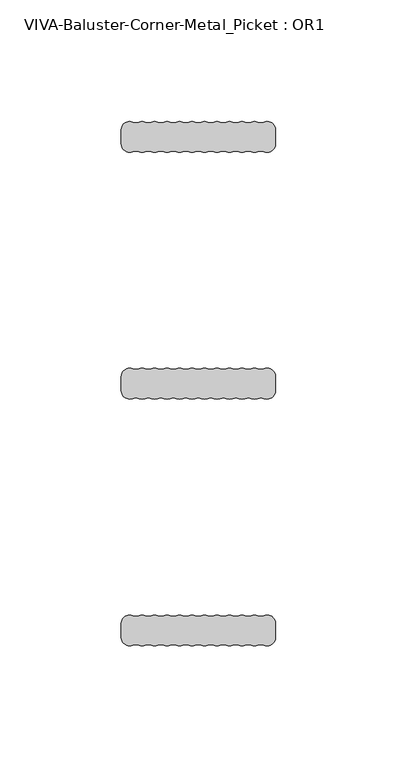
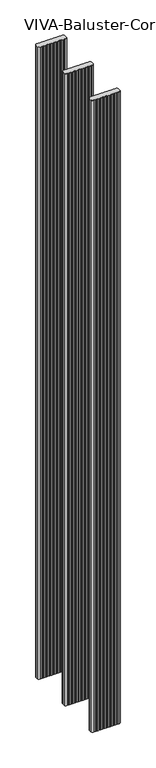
"""IFC4 building model written with IfcOpenShell, lengths in millimetres: railing geometry, VIVA-Baluster-Corner-Metal_Picket : OR1."""

import ifcopenshell
import ifcopenshell.guid

model = None  # the IFC model being written
_history = None  # IfcOwnerHistory: only IFC2X3 demands one
_inside = {}  # id of a spatial element -> (the spatial element, [elements in it])
_under = {}  # id of a project, library or spatial element -> (it, [spatial elements below it])
_declared = {}  # id of a project -> (the project, [libraries it declares])
_typed = {}  # id of a type object -> (the type object, [elements of that type])
_made_of = {}  # id of a material, layer set ... -> (it, [elements and type objects made of it])


def new_model(schema):
    """Start an empty IFC model of exactly this schema.

    Asked for "IFC4X3", IfcOpenShell would pick the latest addendum, in which some entities
    have other attributes; the version numbers below select the first issue.
    IFC2X3 requires an IfcOwnerHistory on every rooted entity: one is made here for all.
    """
    global model, _history
    if schema == "IFC4X3":
        model = ifcopenshell.file(schema_version=(4, 3, 0, 0))
    else:
        model = ifcopenshell.file(schema=schema)
    _inside.clear()
    _under.clear()
    _declared.clear()
    _typed.clear()
    _made_of.clear()
    _history = None
    if model.schema == "IFC2X3":
        org = make("IfcOrganization", Name="unknown")
        user = make(
            "IfcPersonAndOrganization",
            ThePerson=make("IfcPerson", FamilyName="unknown"),
            TheOrganization=org,
        )
        app = make(
            "IfcApplication",
            ApplicationDeveloper=org,
            Version="unknown",
            ApplicationFullName="unknown",
            ApplicationIdentifier="unknown",
        )
        _history = make(
            "IfcOwnerHistory",
            OwningUser=user,
            OwningApplication=app,
            ChangeAction="ADDED",
            CreationDate=0,
        )
    return model


def make(cls, **values):
    """One entity of the class cls with the attributes given. An attribute that is None is left unset."""
    return model.create_entity(
        cls, **{name: value for name, value in values.items() if value is not None}
    )


def rooted(cls, **values):
    """An entity with a GlobalId (a new one), such as an element, a storey or a relation."""
    return make(cls, GlobalId=ifcopenshell.guid.new(), OwnerHistory=_history, **values)


def si_unit(unit_type, name, prefix=None):
    """IfcSIUnit, for example si_unit("LENGTHUNIT", "METRE", prefix="MILLI")."""
    return make("IfcSIUnit", UnitType=unit_type, Prefix=prefix, Name=name)


def assignment(units):
    """IfcUnitAssignment: the units of a project."""
    return None if units is None else make("IfcUnitAssignment", Units=units)


def point(xyz):
    """IfcCartesianPoint."""
    return None if xyz is None else make("IfcCartesianPoint", Coordinates=xyz)


def direction(xyz):
    """IfcDirection."""
    return None if xyz is None else make("IfcDirection", DirectionRatios=xyz)


def frame(location, z_axis=None, x_axis=None):
    """IfcAxis2Placement3D, a coordinate frame: its origin and axes. An axis left out is left unset."""
    return make(
        "IfcAxis2Placement3D",
        Location=point(location),
        Axis=direction(z_axis),
        RefDirection=direction(x_axis),
    )


def frame_2d(location, x_axis=None):
    """IfcAxis2Placement2D, a coordinate frame in the plane: its origin and x axis."""
    return make(
        "IfcAxis2Placement2D", Location=point(location), RefDirection=direction(x_axis)
    )


def origin():
    """The frame at (0, 0, 0) with its axes left unset."""
    return frame((0.0, 0.0, 0.0))


def place(relative_to, where):
    """IfcLocalPlacement: puts the frame where relative to a parent placement (None: the world)."""
    return make(
        "IfcLocalPlacement", PlacementRelTo=relative_to, RelativePlacement=where
    )


def context(
    kind, dimensions, precision=None, world=None, true_north=None, identifier=None
):
    """IfcGeometricRepresentationContext, for example the 3D "Model" context."""
    return make(
        "IfcGeometricRepresentationContext",
        ContextIdentifier=identifier,
        ContextType=kind,
        CoordinateSpaceDimension=dimensions,
        Precision=precision,
        WorldCoordinateSystem=world,
        TrueNorth=true_north,
    )


def project(units=None, contexts=None):
    """IfcProject with its units and contexts."""
    return rooted(
        "IfcProject",
        Name="project",
        RepresentationContexts=contexts,
        UnitsInContext=assignment(units),
    )


def spatial(cls, under=None, at=None, **own):
    """A site, building, storey or space (cls), placed at a placement, below another one or the project."""
    s = rooted(cls, ObjectPlacement=at, **own)
    if under is not None:
        _under.setdefault(under.id(), (under, []))[1].append(s)
    return s


def polyline(points):
    """IfcPolyline through the points."""
    return make("IfcPolyline", Points=[point(p) for p in points])


def circle_curve(where, radius):
    """IfcCircle in the frame where."""
    return make("IfcCircle", Position=where, Radius=radius)


def trimmed(basis, trim1, trim2, sense, master):
    """IfcTrimmedCurve: the piece of a basis curve between two trims."""
    return make(
        "IfcTrimmedCurve",
        BasisCurve=basis,
        Trim1=trim1,
        Trim2=trim2,
        SenseAgreement=sense,
        MasterRepresentation=master,
    )


def segment(curve, same_sense, transition):
    """IfcCompositeCurveSegment."""
    return make(
        "IfcCompositeCurveSegment",
        Transition=transition,
        SameSense=same_sense,
        ParentCurve=curve,
    )


def composite_curve(segments, self_intersect=None):
    """IfcCompositeCurve: segments joined end to end."""
    return make("IfcCompositeCurve", Segments=segments, SelfIntersect=self_intersect)


def outline(outer, holes=None, kind="AREA"):
    """IfcArbitraryClosedProfileDef: a profile drawn as a closed curve; with holes, ...WithVoids."""
    if holes is None:
        return make("IfcArbitraryClosedProfileDef", ProfileType=kind, OuterCurve=outer)
    return make(
        "IfcArbitraryProfileDefWithVoids",
        ProfileType=kind,
        OuterCurve=outer,
        InnerCurves=holes,
    )


def extrude(swept, where, along, depth):
    """IfcExtrudedAreaSolid: the profile swept, set in the frame where, extruded along a direction by depth."""
    return make(
        "IfcExtrudedAreaSolid",
        SweptArea=swept,
        Position=where,
        ExtrudedDirection=direction(along),
        Depth=depth,
    )


def shape(context_of_items, identifier, shape_type, items):
    """IfcShapeRepresentation: the items that make up one representation, for example the "Body"."""
    return make(
        "IfcShapeRepresentation",
        ContextOfItems=context_of_items,
        RepresentationIdentifier=identifier,
        RepresentationType=shape_type,
        Items=items,
    )


def source(mapping_origin, context_of_items, identifier, shape_type, items):
    """IfcRepresentationMap: a shape defined once, which mapped items show again and again."""
    return make(
        "IfcRepresentationMap",
        MappingOrigin=mapping_origin,
        MappedRepresentation=shape(context_of_items, identifier, shape_type, items),
    )


def transform(
    local_origin,
    x_axis=None,
    y_axis=None,
    z_axis=None,
    scale=None,
    scale2=None,
    scale3=None,
    uniform=True,
):
    """IfcCartesianTransformationOperator3D, or its non-uniform kind. x_axis, y_axis, z_axis: its Axis1, 2, 3."""
    if uniform:
        return make(
            "IfcCartesianTransformationOperator3D",
            Axis1=direction(x_axis),
            Axis2=direction(y_axis),
            LocalOrigin=point(local_origin),
            Scale=scale,
            Axis3=direction(z_axis),
        )
    return make(
        "IfcCartesianTransformationOperator3DnonUniform",
        Axis1=direction(x_axis),
        Axis2=direction(y_axis),
        LocalOrigin=point(local_origin),
        Scale=scale,
        Axis3=direction(z_axis),
        Scale2=scale2,
        Scale3=scale3,
    )


def mapped(mapping_source, mapping_target):
    """IfcMappedItem: shows the shape of a source again, moved by a transform."""
    return make(
        "IfcMappedItem", MappingSource=mapping_source, MappingTarget=mapping_target
    )


def made_of(thing, what):
    """Note that an element or type object is made of a material, layer set ...; save() writes the relation."""
    if what is not None:
        _made_of.setdefault(what.id(), (what, []))[1].append(thing)
    return thing


def element(
    cls,
    number,
    at=None,
    inside=None,
    cuts=None,
    type_object=None,
    material=None,
    context=None,
    identifier="Body",
    shape_type=None,
    held_by="IfcProductDefinitionShape",
    body=None,
    shapes=None,
    **own,
):
    """One element of the class cls, such as IfcWall. Its Tag is "e" and its number.

    at: its placement. inside: the storey or other place that contains it. cuts: it is an
    opening in that element (IfcRelVoidsElement). A single representation is given by context,
    identifier, shape_type and body (its items); several are given by shapes. held_by: the class
    of the entity that holds the representations. save() writes the other relations.
    """
    e = rooted(cls, Tag="e%d" % number, ObjectPlacement=at, **own)
    if body is not None:
        shapes = [shape(context, identifier, shape_type, body)]
    if shapes is not None:
        e.Representation = make(held_by, Representations=shapes)
    if inside is not None:
        _inside.setdefault(inside.id(), (inside, []))[1].append(e)
    if cuts is not None:
        rooted(
            "IfcRelVoidsElement", RelatingBuildingElement=cuts, RelatedOpeningElement=e
        )
    if type_object is not None:
        _typed.setdefault(type_object.id(), (type_object, []))[1].append(e)
    return made_of(e, material)


def aggregate(whole, parts):
    """IfcRelAggregates: a whole, such as a stair, and the parts it consists of."""
    return rooted("IfcRelAggregates", RelatingObject=whole, RelatedObjects=parts)


def save(model, path):
    """Write the relations noted so far, then the file.

    IfcRelAggregates (storeys below a building ...), IfcRelContainedInSpatialStructure (elements
    in a storey), IfcRelDefinesByType, IfcRelAssociatesMaterial and IfcRelDeclares: one each for
    every whole, place, type object, material and project.
    """
    for whole, parts in _under.values():
        aggregate(whole, parts)
    for where, things in _inside.values():
        rooted(
            "IfcRelContainedInSpatialStructure",
            RelatedElements=things,
            RelatingStructure=where,
        )
    for kind, things in _typed.values():
        rooted("IfcRelDefinesByType", RelatedObjects=things, RelatingType=kind)
    for what, things in _made_of.values():
        rooted("IfcRelAssociatesMaterial", RelatedObjects=things, RelatingMaterial=what)
    for by, libraries in _declared.values():
        rooted("IfcRelDeclares", RelatingContext=by, RelatedDefinitions=libraries)
    model.write(path)


def viva_baluster_corner_metal_picket_or1_6b40696d(model_context):
    return source(origin(), model_context, "Body", "SweptSolid", [
        extrude(outline(composite_curve([segment(trimmed(circle_curve(frame_2d((53.2043012, 82.6550148)), 3.4374084), [point((51.9173652, 85.8424232))], [point((56.6417096, 82.6550148))], False, "CARTESIAN"), True, "CONTINUOUS"), segment(polyline([(56.6417096, 82.6550148), (56.6417096, 76.8298317)]), True, "CONTINUOUS"), segment(trimmed(circle_curve(frame_2d((53.2043012, 76.8298317)), 3.4374084), [point((56.6417096, 76.8298317))], [point((51.9173652, 73.6424232))], False, "CARTESIAN"), True, "CONTINUOUS"), segment(trimmed(circle_curve(frame_2d((50.6304292, 70.4550148)), 3.4374084), [point((51.9173652, 73.6424232))], [point((49.3434933, 73.6424232))], True, "CARTESIAN"), True, "CONTINUOUS"), segment(trimmed(circle_curve(frame_2d((48.0565573, 76.8298317)), 3.4374084), [point((49.3434933, 73.6424232))], [point((46.7696213, 73.6424232))], False, "CARTESIAN"), True, "CONTINUOUS"), segment(trimmed(circle_curve(frame_2d((45.4826853, 70.4550148)), 3.4374084), [point((46.7696213, 73.6424232))], [point((44.1957493, 73.6424232))], True, "CARTESIAN"), True, "CONTINUOUS"), segment(trimmed(circle_curve(frame_2d((42.9088134, 76.8298317)), 3.4374084), [point((44.1957493, 73.6424232))], [point((41.6218774, 73.6424232))], False, "CARTESIAN"), True, "CONTINUOUS"), segment(trimmed(circle_curve(frame_2d((40.3349414, 70.4550148)), 3.4374084), [point((41.6218774, 73.6424232))], [point((39.0480054, 73.6424232))], True, "CARTESIAN"), True, "CONTINUOUS"), segment(trimmed(circle_curve(frame_2d((37.7610694, 76.8298317)), 3.4374084), [point((39.0480054, 73.6424232))], [point((36.4741335, 73.6424232))], False, "CARTESIAN"), True, "CONTINUOUS"), segment(trimmed(circle_curve(frame_2d((35.1871975, 70.4550148)), 3.4374084), [point((36.4741335, 73.6424232))], [point((33.9002615, 73.6424232))], True, "CARTESIAN"), True, "CONTINUOUS"), segment(trimmed(circle_curve(frame_2d((32.6133255, 76.8298317)), 3.4374084), [point((33.9002615, 73.6424232))], [point((31.3263895, 73.6424232))], False, "CARTESIAN"), True, "CONTINUOUS"), segment(trimmed(circle_curve(frame_2d((30.0394536, 70.4550148)), 3.4374084), [point((31.3263895, 73.6424232))], [point((28.7525176, 73.6424232))], True, "CARTESIAN"), True, "CONTINUOUS"), segment(trimmed(circle_curve(frame_2d((27.4655816, 76.8298317)), 3.4374084), [point((28.7525176, 73.6424232))], [point((26.1786456, 73.6424232))], False, "CARTESIAN"), True, "CONTINUOUS"), segment(trimmed(circle_curve(frame_2d((24.8917096, 70.4550148)), 3.4374084), [point((26.1786456, 73.6424232))], [point((23.6047737, 73.6424232))], True, "CARTESIAN"), True, "CONTINUOUS"), segment(trimmed(circle_curve(frame_2d((22.3178377, 76.8298317)), 3.4374084), [point((23.6047737, 73.6424232))], [point((21.0309017, 73.6424232))], False, "CARTESIAN"), True, "CONTINUOUS"), segment(trimmed(circle_curve(frame_2d((19.7439657, 70.4550148)), 3.4374084), [point((21.0309017, 73.6424232))], [point((18.4570297, 73.6424232))], True, "CARTESIAN"), True, "CONTINUOUS"), segment(trimmed(circle_curve(frame_2d((17.1700938, 76.8298317)), 3.4374084), [point((18.4570297, 73.6424232))], [point((15.8831578, 73.6424232))], False, "CARTESIAN"), True, "CONTINUOUS"), segment(trimmed(circle_curve(frame_2d((14.5962218, 70.4550148)), 3.4374084), [point((15.8831578, 73.6424232))], [point((13.3092858, 73.6424232))], True, "CARTESIAN"), True, "CONTINUOUS"), segment(trimmed(circle_curve(frame_2d((12.0223498, 76.8298317)), 3.4374084), [point((13.3092858, 73.6424232))], [point((10.7354139, 73.6424232))], False, "CARTESIAN"), True, "CONTINUOUS"), segment(trimmed(circle_curve(frame_2d((9.4484779, 70.4550148)), 3.4374084), [point((10.7354139, 73.6424232))], [point((8.1615419, 73.6424232))], True, "CARTESIAN"), True, "CONTINUOUS"), segment(trimmed(circle_curve(frame_2d((6.8746059, 76.8298317)), 3.4374084), [point((8.1615419, 73.6424232))], [point((5.5876699, 73.6424232))], False, "CARTESIAN"), True, "CONTINUOUS"), segment(trimmed(circle_curve(frame_2d((4.3007339, 70.4550148)), 3.4374084), [point((5.5876699, 73.6424232))], [point((3.013798, 73.6424232))], True, "CARTESIAN"), True, "CONTINUOUS"), segment(trimmed(circle_curve(frame_2d((1.726862, 76.8298317)), 3.4374084), [point((3.013798, 73.6424232))], [point((0.439926, 73.6424232))], False, "CARTESIAN"), True, "CONTINUOUS"), segment(trimmed(circle_curve(frame_2d((-0.84701, 70.4550148)), 3.4374084), [point((0.439926, 73.6424232))], [point((-2.133946, 73.6424232))], True, "CARTESIAN"), True, "CONTINUOUS"), segment(trimmed(circle_curve(frame_2d((-3.4208819, 76.8298317)), 3.4374084), [point((-2.133946, 73.6424232))], [point((-6.8582904, 76.8298317))], False, "CARTESIAN"), True, "CONTINUOUS"), segment(polyline([(-6.8582904, 76.8298317), (-6.8582904, 82.6550148)]), True, "CONTINUOUS"), segment(trimmed(circle_curve(frame_2d((-3.4208819, 82.6550148)), 3.4374084), [point((-6.8582904, 82.6550148))], [point((-2.133946, 85.8424232))], False, "CARTESIAN"), True, "CONTINUOUS"), segment(trimmed(circle_curve(frame_2d((-0.84701, 89.0298317)), 3.4374084), [point((-2.133946, 85.8424232))], [point((0.439926, 85.8424232))], True, "CARTESIAN"), True, "CONTINUOUS"), segment(trimmed(circle_curve(frame_2d((1.726862, 82.6550148)), 3.4374084), [point((0.439926, 85.8424232))], [point((3.013798, 85.8424232))], False, "CARTESIAN"), True, "CONTINUOUS"), segment(trimmed(circle_curve(frame_2d((4.3007339, 89.0298317)), 3.4374084), [point((3.013798, 85.8424232))], [point((5.5876699, 85.8424232))], True, "CARTESIAN"), True, "CONTINUOUS"), segment(trimmed(circle_curve(frame_2d((6.8746059, 82.6550148)), 3.4374084), [point((5.5876699, 85.8424232))], [point((8.1615419, 85.8424232))], False, "CARTESIAN"), True, "CONTINUOUS"), segment(trimmed(circle_curve(frame_2d((9.4484779, 89.0298317)), 3.4374084), [point((8.1615419, 85.8424232))], [point((10.7354139, 85.8424232))], True, "CARTESIAN"), True, "CONTINUOUS"), segment(trimmed(circle_curve(frame_2d((12.0223498, 82.6550148)), 3.4374084), [point((10.7354139, 85.8424232))], [point((13.3092858, 85.8424232))], False, "CARTESIAN"), True, "CONTINUOUS"), segment(trimmed(circle_curve(frame_2d((14.5962218, 89.0298317)), 3.4374084), [point((13.3092858, 85.8424232))], [point((15.8831578, 85.8424232))], True, "CARTESIAN"), True, "CONTINUOUS"), segment(trimmed(circle_curve(frame_2d((17.1700938, 82.6550148)), 3.4374084), [point((15.8831578, 85.8424232))], [point((18.4570297, 85.8424232))], False, "CARTESIAN"), True, "CONTINUOUS"), segment(trimmed(circle_curve(frame_2d((19.7439657, 89.0298317)), 3.4374084), [point((18.4570297, 85.8424232))], [point((21.0309017, 85.8424232))], True, "CARTESIAN"), True, "CONTINUOUS"), segment(trimmed(circle_curve(frame_2d((22.3178377, 82.6550148)), 3.4374084), [point((21.0309017, 85.8424232))], [point((23.6047737, 85.8424232))], False, "CARTESIAN"), True, "CONTINUOUS"), segment(trimmed(circle_curve(frame_2d((24.8917096, 89.0298317)), 3.4374084), [point((23.6047737, 85.8424232))], [point((26.1786456, 85.8424232))], True, "CARTESIAN"), True, "CONTINUOUS"), segment(trimmed(circle_curve(frame_2d((27.4655816, 82.6550148)), 3.4374084), [point((26.1786456, 85.8424232))], [point((28.7525176, 85.8424232))], False, "CARTESIAN"), True, "CONTINUOUS"), segment(trimmed(circle_curve(frame_2d((30.0394536, 89.0298317)), 3.4374084), [point((28.7525176, 85.8424232))], [point((31.3263895, 85.8424232))], True, "CARTESIAN"), True, "CONTINUOUS"), segment(trimmed(circle_curve(frame_2d((32.6133255, 82.6550148)), 3.4374084), [point((31.3263895, 85.8424232))], [point((33.9002615, 85.8424232))], False, "CARTESIAN"), True, "CONTINUOUS"), segment(trimmed(circle_curve(frame_2d((35.1871975, 89.0298317)), 3.4374084), [point((33.9002615, 85.8424232))], [point((36.4741335, 85.8424232))], True, "CARTESIAN"), True, "CONTINUOUS"), segment(trimmed(circle_curve(frame_2d((37.7610694, 82.6550148)), 3.4374084), [point((36.4741335, 85.8424232))], [point((39.0480054, 85.8424232))], False, "CARTESIAN"), True, "CONTINUOUS"), segment(trimmed(circle_curve(frame_2d((40.3349414, 89.0298317)), 3.4374084), [point((39.0480054, 85.8424232))], [point((41.6218774, 85.8424232))], True, "CARTESIAN"), True, "CONTINUOUS"), segment(trimmed(circle_curve(frame_2d((42.9088134, 82.6550148)), 3.4374084), [point((41.6218774, 85.8424232))], [point((44.1957493, 85.8424232))], False, "CARTESIAN"), True, "CONTINUOUS"), segment(trimmed(circle_curve(frame_2d((45.4826853, 89.0298317)), 3.4374084), [point((44.1957493, 85.8424232))], [point((46.7696213, 85.8424232))], True, "CARTESIAN"), True, "CONTINUOUS"), segment(trimmed(circle_curve(frame_2d((48.0565573, 82.6550148)), 3.4374084), [point((46.7696213, 85.8424232))], [point((49.3434933, 85.8424232))], False, "CARTESIAN"), True, "CONTINUOUS"), segment(trimmed(circle_curve(frame_2d((50.6304292, 89.0298317)), 3.4374084), [point((49.3434933, 85.8424232))], [point((51.9173652, 85.8424232))], True, "CARTESIAN"), True, "CONTINUOUS")], self_intersect=False)), frame((0.0, 0.0, -245.8945017), z_axis=(0.0, 0.0, 1.0), x_axis=(1.0, 0.0, 0.0)), (0.0, 0.0, 1.0), 1465.0945017),
        extrude(outline(composite_curve([segment(trimmed(circle_curve(frame_2d((53.2043012, 184.2550148)), 3.4374084), [point((51.9173652, 187.4424232))], [point((56.6417096, 184.2550148))], False, "CARTESIAN"), True, "CONTINUOUS"), segment(polyline([(56.6417096, 184.2550148), (56.6417096, 178.4298317)]), True, "CONTINUOUS"), segment(trimmed(circle_curve(frame_2d((53.2043012, 178.4298317)), 3.4374084), [point((56.6417096, 178.4298317))], [point((51.9173652, 175.2424232))], False, "CARTESIAN"), True, "CONTINUOUS"), segment(trimmed(circle_curve(frame_2d((50.6304292, 172.0550148)), 3.4374084), [point((51.9173652, 175.2424232))], [point((49.3434933, 175.2424232))], True, "CARTESIAN"), True, "CONTINUOUS"), segment(trimmed(circle_curve(frame_2d((48.0565573, 178.4298317)), 3.4374084), [point((49.3434933, 175.2424232))], [point((46.7696213, 175.2424232))], False, "CARTESIAN"), True, "CONTINUOUS"), segment(trimmed(circle_curve(frame_2d((45.4826853, 172.0550148)), 3.4374084), [point((46.7696213, 175.2424232))], [point((44.1957493, 175.2424232))], True, "CARTESIAN"), True, "CONTINUOUS"), segment(trimmed(circle_curve(frame_2d((42.9088134, 178.4298317)), 3.4374084), [point((44.1957493, 175.2424232))], [point((41.6218774, 175.2424232))], False, "CARTESIAN"), True, "CONTINUOUS"), segment(trimmed(circle_curve(frame_2d((40.3349414, 172.0550148)), 3.4374084), [point((41.6218774, 175.2424232))], [point((39.0480054, 175.2424232))], True, "CARTESIAN"), True, "CONTINUOUS"), segment(trimmed(circle_curve(frame_2d((37.7610694, 178.4298317)), 3.4374084), [point((39.0480054, 175.2424232))], [point((36.4741335, 175.2424232))], False, "CARTESIAN"), True, "CONTINUOUS"), segment(trimmed(circle_curve(frame_2d((35.1871975, 172.0550148)), 3.4374084), [point((36.4741335, 175.2424232))], [point((33.9002615, 175.2424232))], True, "CARTESIAN"), True, "CONTINUOUS"), segment(trimmed(circle_curve(frame_2d((32.6133255, 178.4298317)), 3.4374084), [point((33.9002615, 175.2424232))], [point((31.3263895, 175.2424232))], False, "CARTESIAN"), True, "CONTINUOUS"), segment(trimmed(circle_curve(frame_2d((30.0394536, 172.0550148)), 3.4374084), [point((31.3263895, 175.2424232))], [point((28.7525176, 175.2424232))], True, "CARTESIAN"), True, "CONTINUOUS"), segment(trimmed(circle_curve(frame_2d((27.4655816, 178.4298317)), 3.4374084), [point((28.7525176, 175.2424232))], [point((26.1786456, 175.2424232))], False, "CARTESIAN"), True, "CONTINUOUS"), segment(trimmed(circle_curve(frame_2d((24.8917096, 172.0550148)), 3.4374084), [point((26.1786456, 175.2424232))], [point((23.6047737, 175.2424232))], True, "CARTESIAN"), True, "CONTINUOUS"), segment(trimmed(circle_curve(frame_2d((22.3178377, 178.4298317)), 3.4374084), [point((23.6047737, 175.2424232))], [point((21.0309017, 175.2424232))], False, "CARTESIAN"), True, "CONTINUOUS"), segment(trimmed(circle_curve(frame_2d((19.7439657, 172.0550148)), 3.4374084), [point((21.0309017, 175.2424232))], [point((18.4570297, 175.2424232))], True, "CARTESIAN"), True, "CONTINUOUS"), segment(trimmed(circle_curve(frame_2d((17.1700938, 178.4298317)), 3.4374084), [point((18.4570297, 175.2424232))], [point((15.8831578, 175.2424232))], False, "CARTESIAN"), True, "CONTINUOUS"), segment(trimmed(circle_curve(frame_2d((14.5962218, 172.0550148)), 3.4374084), [point((15.8831578, 175.2424232))], [point((13.3092858, 175.2424232))], True, "CARTESIAN"), True, "CONTINUOUS"), segment(trimmed(circle_curve(frame_2d((12.0223498, 178.4298317)), 3.4374084), [point((13.3092858, 175.2424232))], [point((10.7354138, 175.2424232))], False, "CARTESIAN"), True, "CONTINUOUS"), segment(trimmed(circle_curve(frame_2d((9.4484779, 172.0550148)), 3.4374084), [point((10.7354138, 175.2424232))], [point((8.1615419, 175.2424232))], True, "CARTESIAN"), True, "CONTINUOUS"), segment(trimmed(circle_curve(frame_2d((6.8746059, 178.4298317)), 3.4374084), [point((8.1615419, 175.2424232))], [point((5.5876699, 175.2424232))], False, "CARTESIAN"), True, "CONTINUOUS"), segment(trimmed(circle_curve(frame_2d((4.3007339, 172.0550148)), 3.4374084), [point((5.5876699, 175.2424232))], [point((3.013798, 175.2424232))], True, "CARTESIAN"), True, "CONTINUOUS"), segment(trimmed(circle_curve(frame_2d((1.726862, 178.4298317)), 3.4374084), [point((3.013798, 175.2424232))], [point((0.439926, 175.2424232))], False, "CARTESIAN"), True, "CONTINUOUS"), segment(trimmed(circle_curve(frame_2d((-0.84701, 172.0550148)), 3.4374084), [point((0.439926, 175.2424232))], [point((-2.133946, 175.2424232))], True, "CARTESIAN"), True, "CONTINUOUS"), segment(trimmed(circle_curve(frame_2d((-3.4208819, 178.4298317)), 3.4374084), [point((-2.133946, 175.2424232))], [point((-6.8582904, 178.4298317))], False, "CARTESIAN"), True, "CONTINUOUS"), segment(polyline([(-6.8582904, 178.4298317), (-6.8582904, 184.2550148)]), True, "CONTINUOUS"), segment(trimmed(circle_curve(frame_2d((-3.4208819, 184.2550148)), 3.4374084), [point((-6.8582904, 184.2550148))], [point((-2.1339459, 187.4424232))], False, "CARTESIAN"), True, "CONTINUOUS"), segment(trimmed(circle_curve(frame_2d((-0.84701, 190.6298316)), 3.4374084), [point((-2.1339459, 187.4424232))], [point((0.439926, 187.4424232))], True, "CARTESIAN"), True, "CONTINUOUS"), segment(trimmed(circle_curve(frame_2d((1.726862, 184.2550148)), 3.4374084), [point((0.439926, 187.4424232))], [point((3.013798, 187.4424232))], False, "CARTESIAN"), True, "CONTINUOUS"), segment(trimmed(circle_curve(frame_2d((4.3007339, 190.6298316)), 3.4374084), [point((3.013798, 187.4424232))], [point((5.5876699, 187.4424232))], True, "CARTESIAN"), True, "CONTINUOUS"), segment(trimmed(circle_curve(frame_2d((6.8746059, 184.2550148)), 3.4374084), [point((5.5876699, 187.4424232))], [point((8.1615419, 187.4424232))], False, "CARTESIAN"), True, "CONTINUOUS"), segment(trimmed(circle_curve(frame_2d((9.4484779, 190.6298316)), 3.4374084), [point((8.1615419, 187.4424232))], [point((10.7354139, 187.4424232))], True, "CARTESIAN"), True, "CONTINUOUS"), segment(trimmed(circle_curve(frame_2d((12.0223498, 184.2550148)), 3.4374084), [point((10.7354139, 187.4424232))], [point((13.3092858, 187.4424232))], False, "CARTESIAN"), True, "CONTINUOUS"), segment(trimmed(circle_curve(frame_2d((14.5962218, 190.6298317)), 3.4374084), [point((13.3092858, 187.4424232))], [point((15.8831578, 187.4424232))], True, "CARTESIAN"), True, "CONTINUOUS"), segment(trimmed(circle_curve(frame_2d((17.1700938, 184.2550148)), 3.4374084), [point((15.8831578, 187.4424232))], [point((18.4570297, 187.4424232))], False, "CARTESIAN"), True, "CONTINUOUS"), segment(trimmed(circle_curve(frame_2d((19.7439657, 190.6298317)), 3.4374084), [point((18.4570297, 187.4424232))], [point((21.0309017, 187.4424232))], True, "CARTESIAN"), True, "CONTINUOUS"), segment(trimmed(circle_curve(frame_2d((22.3178377, 184.2550148)), 3.4374084), [point((21.0309017, 187.4424232))], [point((23.6047737, 187.4424232))], False, "CARTESIAN"), True, "CONTINUOUS"), segment(trimmed(circle_curve(frame_2d((24.8917096, 190.6298317)), 3.4374084), [point((23.6047737, 187.4424232))], [point((26.1786456, 187.4424232))], True, "CARTESIAN"), True, "CONTINUOUS"), segment(trimmed(circle_curve(frame_2d((27.4655816, 184.2550148)), 3.4374084), [point((26.1786456, 187.4424232))], [point((28.7525176, 187.4424232))], False, "CARTESIAN"), True, "CONTINUOUS"), segment(trimmed(circle_curve(frame_2d((30.0394536, 190.6298317)), 3.4374084), [point((28.7525176, 187.4424232))], [point((31.3263895, 187.4424232))], True, "CARTESIAN"), True, "CONTINUOUS"), segment(trimmed(circle_curve(frame_2d((32.6133255, 184.2550148)), 3.4374084), [point((31.3263895, 187.4424232))], [point((33.9002615, 187.4424232))], False, "CARTESIAN"), True, "CONTINUOUS"), segment(trimmed(circle_curve(frame_2d((35.1871975, 190.6298317)), 3.4374084), [point((33.9002615, 187.4424232))], [point((36.4741335, 187.4424232))], True, "CARTESIAN"), True, "CONTINUOUS"), segment(trimmed(circle_curve(frame_2d((37.7610694, 184.2550148)), 3.4374084), [point((36.4741335, 187.4424232))], [point((39.0480054, 187.4424232))], False, "CARTESIAN"), True, "CONTINUOUS"), segment(trimmed(circle_curve(frame_2d((40.3349414, 190.6298317)), 3.4374084), [point((39.0480054, 187.4424232))], [point((41.6218774, 187.4424232))], True, "CARTESIAN"), True, "CONTINUOUS"), segment(trimmed(circle_curve(frame_2d((42.9088134, 184.2550148)), 3.4374084), [point((41.6218774, 187.4424232))], [point((44.1957493, 187.4424232))], False, "CARTESIAN"), True, "CONTINUOUS"), segment(trimmed(circle_curve(frame_2d((45.4826853, 190.6298317)), 3.4374084), [point((44.1957493, 187.4424232))], [point((46.7696213, 187.4424232))], True, "CARTESIAN"), True, "CONTINUOUS"), segment(trimmed(circle_curve(frame_2d((48.0565573, 184.2550148)), 3.4374084), [point((46.7696213, 187.4424232))], [point((49.3434933, 187.4424232))], False, "CARTESIAN"), True, "CONTINUOUS"), segment(trimmed(circle_curve(frame_2d((50.6304292, 190.6298317)), 3.4374084), [point((49.3434933, 187.4424232))], [point((51.9173652, 187.4424232))], True, "CARTESIAN"), True, "CONTINUOUS")], self_intersect=False)), frame((0.0, 0.0, -245.8945017), z_axis=(0.0, 0.0, 1.0), x_axis=(1.0, 0.0, 0.0)), (0.0, 0.0, 1.0), 1465.0945017),
        extrude(outline(composite_curve([segment(trimmed(circle_curve(frame_2d((53.2043012, 285.8550148)), 3.4374084), [point((51.9173652, 289.0424232))], [point((56.6417096, 285.8550148))], False, "CARTESIAN"), True, "CONTINUOUS"), segment(polyline([(56.6417096, 285.8550148), (56.6417096, 280.0298317)]), True, "CONTINUOUS"), segment(trimmed(circle_curve(frame_2d((53.2043012, 280.0298317)), 3.4374084), [point((56.6417096, 280.0298317))], [point((51.9173652, 276.8424232))], False, "CARTESIAN"), True, "CONTINUOUS"), segment(trimmed(circle_curve(frame_2d((50.6304292, 273.6550148)), 3.4374084), [point((51.9173652, 276.8424232))], [point((49.3434933, 276.8424232))], True, "CARTESIAN"), True, "CONTINUOUS"), segment(trimmed(circle_curve(frame_2d((48.0565573, 280.0298317)), 3.4374084), [point((49.3434933, 276.8424232))], [point((46.7696213, 276.8424232))], False, "CARTESIAN"), True, "CONTINUOUS"), segment(trimmed(circle_curve(frame_2d((45.4826853, 273.6550148)), 3.4374084), [point((46.7696213, 276.8424232))], [point((44.1957493, 276.8424232))], True, "CARTESIAN"), True, "CONTINUOUS"), segment(trimmed(circle_curve(frame_2d((42.9088134, 280.0298317)), 3.4374084), [point((44.1957493, 276.8424232))], [point((41.6218774, 276.8424232))], False, "CARTESIAN"), True, "CONTINUOUS"), segment(trimmed(circle_curve(frame_2d((40.3349414, 273.6550148)), 3.4374084), [point((41.6218774, 276.8424232))], [point((39.0480054, 276.8424232))], True, "CARTESIAN"), True, "CONTINUOUS"), segment(trimmed(circle_curve(frame_2d((37.7610694, 280.0298317)), 3.4374084), [point((39.0480054, 276.8424232))], [point((36.4741335, 276.8424232))], False, "CARTESIAN"), True, "CONTINUOUS"), segment(trimmed(circle_curve(frame_2d((35.1871975, 273.6550148)), 3.4374084), [point((36.4741335, 276.8424232))], [point((33.9002615, 276.8424232))], True, "CARTESIAN"), True, "CONTINUOUS"), segment(trimmed(circle_curve(frame_2d((32.6133255, 280.0298317)), 3.4374084), [point((33.9002615, 276.8424232))], [point((31.3263895, 276.8424232))], False, "CARTESIAN"), True, "CONTINUOUS"), segment(trimmed(circle_curve(frame_2d((30.0394536, 273.6550148)), 3.4374084), [point((31.3263895, 276.8424232))], [point((28.7525176, 276.8424232))], True, "CARTESIAN"), True, "CONTINUOUS"), segment(trimmed(circle_curve(frame_2d((27.4655816, 280.0298317)), 3.4374084), [point((28.7525176, 276.8424232))], [point((26.1786456, 276.8424232))], False, "CARTESIAN"), True, "CONTINUOUS"), segment(trimmed(circle_curve(frame_2d((24.8917096, 273.6550148)), 3.4374084), [point((26.1786456, 276.8424232))], [point((23.6047737, 276.8424232))], True, "CARTESIAN"), True, "CONTINUOUS"), segment(trimmed(circle_curve(frame_2d((22.3178377, 280.0298317)), 3.4374084), [point((23.6047737, 276.8424232))], [point((21.0309017, 276.8424232))], False, "CARTESIAN"), True, "CONTINUOUS"), segment(trimmed(circle_curve(frame_2d((19.7439657, 273.6550148)), 3.4374084), [point((21.0309017, 276.8424232))], [point((18.4570297, 276.8424232))], True, "CARTESIAN"), True, "CONTINUOUS"), segment(trimmed(circle_curve(frame_2d((17.1700938, 280.0298317)), 3.4374084), [point((18.4570297, 276.8424232))], [point((15.8831578, 276.8424232))], False, "CARTESIAN"), True, "CONTINUOUS"), segment(trimmed(circle_curve(frame_2d((14.5962218, 273.6550148)), 3.4374084), [point((15.8831578, 276.8424232))], [point((13.3092858, 276.8424232))], True, "CARTESIAN"), True, "CONTINUOUS"), segment(trimmed(circle_curve(frame_2d((12.0223498, 280.0298317)), 3.4374084), [point((13.3092858, 276.8424232))], [point((10.7354138, 276.8424232))], False, "CARTESIAN"), True, "CONTINUOUS"), segment(trimmed(circle_curve(frame_2d((9.4484779, 273.6550148)), 3.4374084), [point((10.7354138, 276.8424232))], [point((8.1615419, 276.8424232))], True, "CARTESIAN"), True, "CONTINUOUS"), segment(trimmed(circle_curve(frame_2d((6.8746059, 280.0298317)), 3.4374084), [point((8.1615419, 276.8424232))], [point((5.5876699, 276.8424232))], False, "CARTESIAN"), True, "CONTINUOUS"), segment(trimmed(circle_curve(frame_2d((4.3007339, 273.6550148)), 3.4374084), [point((5.5876699, 276.8424232))], [point((3.013798, 276.8424232))], True, "CARTESIAN"), True, "CONTINUOUS"), segment(trimmed(circle_curve(frame_2d((1.726862, 280.0298317)), 3.4374084), [point((3.013798, 276.8424232))], [point((0.439926, 276.8424232))], False, "CARTESIAN"), True, "CONTINUOUS"), segment(trimmed(circle_curve(frame_2d((-0.84701, 273.6550148)), 3.4374084), [point((0.439926, 276.8424232))], [point((-2.133946, 276.8424232))], True, "CARTESIAN"), True, "CONTINUOUS"), segment(trimmed(circle_curve(frame_2d((-3.4208819, 280.0298317)), 3.4374084), [point((-2.133946, 276.8424232))], [point((-6.8582904, 280.0298317))], False, "CARTESIAN"), True, "CONTINUOUS"), segment(polyline([(-6.8582904, 280.0298317), (-6.8582904, 285.8550148)]), True, "CONTINUOUS"), segment(trimmed(circle_curve(frame_2d((-3.4208819, 285.8550148)), 3.4374084), [point((-6.8582904, 285.8550148))], [point((-2.133946, 289.0424232))], False, "CARTESIAN"), True, "CONTINUOUS"), segment(trimmed(circle_curve(frame_2d((-0.84701, 292.2298316)), 3.4374084), [point((-2.133946, 289.0424232))], [point((0.439926, 289.0424232))], True, "CARTESIAN"), True, "CONTINUOUS"), segment(trimmed(circle_curve(frame_2d((1.726862, 285.8550148)), 3.4374084), [point((0.439926, 289.0424232))], [point((3.013798, 289.0424232))], False, "CARTESIAN"), True, "CONTINUOUS"), segment(trimmed(circle_curve(frame_2d((4.3007339, 292.2298316)), 3.4374084), [point((3.013798, 289.0424232))], [point((5.5876699, 289.0424232))], True, "CARTESIAN"), True, "CONTINUOUS"), segment(trimmed(circle_curve(frame_2d((6.8746059, 285.8550148)), 3.4374084), [point((5.5876699, 289.0424232))], [point((8.1615419, 289.0424232))], False, "CARTESIAN"), True, "CONTINUOUS"), segment(trimmed(circle_curve(frame_2d((9.4484779, 292.2298317)), 3.4374084), [point((8.1615419, 289.0424232))], [point((10.7354139, 289.0424232))], True, "CARTESIAN"), True, "CONTINUOUS"), segment(trimmed(circle_curve(frame_2d((12.0223498, 285.8550148)), 3.4374084), [point((10.7354139, 289.0424232))], [point((13.3092858, 289.0424232))], False, "CARTESIAN"), True, "CONTINUOUS"), segment(trimmed(circle_curve(frame_2d((14.5962218, 292.2298317)), 3.4374084), [point((13.3092858, 289.0424232))], [point((15.8831578, 289.0424232))], True, "CARTESIAN"), True, "CONTINUOUS"), segment(trimmed(circle_curve(frame_2d((17.1700938, 285.8550148)), 3.4374084), [point((15.8831578, 289.0424232))], [point((18.4570297, 289.0424232))], False, "CARTESIAN"), True, "CONTINUOUS"), segment(trimmed(circle_curve(frame_2d((19.7439657, 292.2298317)), 3.4374084), [point((18.4570297, 289.0424232))], [point((21.0309017, 289.0424232))], True, "CARTESIAN"), True, "CONTINUOUS"), segment(trimmed(circle_curve(frame_2d((22.3178377, 285.8550148)), 3.4374084), [point((21.0309017, 289.0424232))], [point((23.6047737, 289.0424232))], False, "CARTESIAN"), True, "CONTINUOUS"), segment(trimmed(circle_curve(frame_2d((24.8917096, 292.2298317)), 3.4374084), [point((23.6047737, 289.0424232))], [point((26.1786456, 289.0424232))], True, "CARTESIAN"), True, "CONTINUOUS"), segment(trimmed(circle_curve(frame_2d((27.4655816, 285.8550148)), 3.4374084), [point((26.1786456, 289.0424232))], [point((28.7525176, 289.0424232))], False, "CARTESIAN"), True, "CONTINUOUS"), segment(trimmed(circle_curve(frame_2d((30.0394536, 292.2298317)), 3.4374084), [point((28.7525176, 289.0424232))], [point((31.3263895, 289.0424232))], True, "CARTESIAN"), True, "CONTINUOUS"), segment(trimmed(circle_curve(frame_2d((32.6133255, 285.8550148)), 3.4374084), [point((31.3263895, 289.0424232))], [point((33.9002615, 289.0424232))], False, "CARTESIAN"), True, "CONTINUOUS"), segment(trimmed(circle_curve(frame_2d((35.1871975, 292.2298317)), 3.4374084), [point((33.9002615, 289.0424232))], [point((36.4741335, 289.0424232))], True, "CARTESIAN"), True, "CONTINUOUS"), segment(trimmed(circle_curve(frame_2d((37.7610694, 285.8550148)), 3.4374084), [point((36.4741335, 289.0424232))], [point((39.0480054, 289.0424232))], False, "CARTESIAN"), True, "CONTINUOUS"), segment(trimmed(circle_curve(frame_2d((40.3349414, 292.2298317)), 3.4374084), [point((39.0480054, 289.0424232))], [point((41.6218774, 289.0424232))], True, "CARTESIAN"), True, "CONTINUOUS"), segment(trimmed(circle_curve(frame_2d((42.9088134, 285.8550148)), 3.4374084), [point((41.6218774, 289.0424232))], [point((44.1957493, 289.0424232))], False, "CARTESIAN"), True, "CONTINUOUS"), segment(trimmed(circle_curve(frame_2d((45.4826853, 292.2298317)), 3.4374084), [point((44.1957493, 289.0424232))], [point((46.7696213, 289.0424232))], True, "CARTESIAN"), True, "CONTINUOUS"), segment(trimmed(circle_curve(frame_2d((48.0565573, 285.8550148)), 3.4374084), [point((46.7696213, 289.0424232))], [point((49.3434933, 289.0424232))], False, "CARTESIAN"), True, "CONTINUOUS"), segment(trimmed(circle_curve(frame_2d((50.6304292, 292.2298317)), 3.4374084), [point((49.3434933, 289.0424232))], [point((51.9173652, 289.0424232))], True, "CARTESIAN"), True, "CONTINUOUS")], self_intersect=False)), frame((0.0, 0.0, -245.8945017), z_axis=(0.0, 0.0, 1.0), x_axis=(1.0, 0.0, 0.0)), (0.0, 0.0, 1.0), 1465.0945017),
    ])


if __name__ == "__main__":
    model = new_model("IFC4")
    model_context = context("Model", 3, world=origin())
    ifc_project = project(units=[si_unit("LENGTHUNIT", "METRE", prefix="MILLI")], contexts=[model_context])
    site = spatial("IfcSite", under=ifc_project)
    building = spatial("IfcBuilding", under=site)
    placement = place(None, origin())
    viva_baluster_corner_metal_picket_or1_shape = viva_baluster_corner_metal_picket_or1_6b40696d(model_context)
    element("IfcRailing", 1, ObjectType="VIVA-Baluster-Corner-Metal_Picket : OR1", at=placement, inside=building, context=model_context, shape_type="MappedRepresentation", body=[
        mapped(viva_baluster_corner_metal_picket_or1_shape, transform((0.0, 0.0, 0.0), x_axis=(1.0, 0.0, 0.0), y_axis=(0.0, 1.0, 0.0), z_axis=(0.0, 0.0, 1.0))),
    ])
    save(model, "model.ifc")
